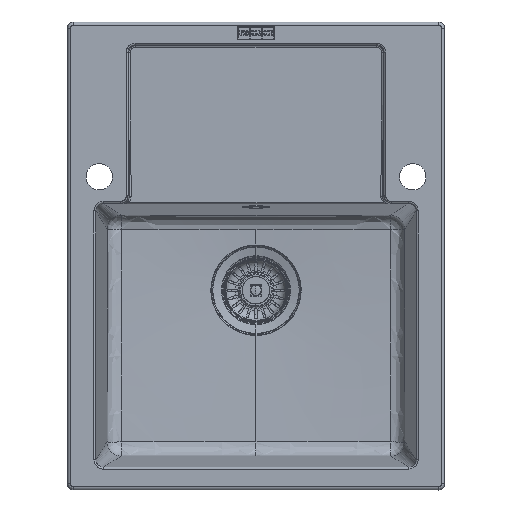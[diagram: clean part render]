
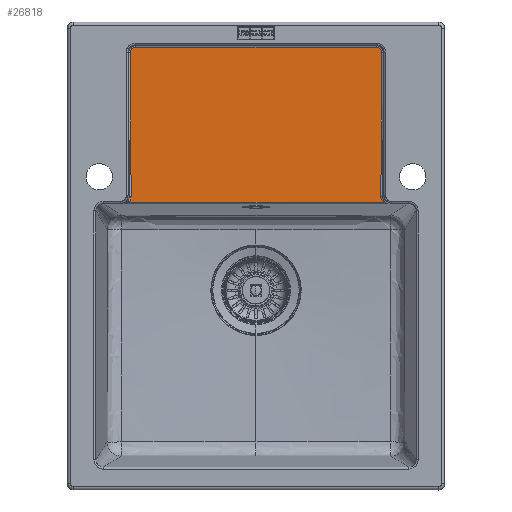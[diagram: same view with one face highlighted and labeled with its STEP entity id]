
A CAD part, top view. The second image highlights one B-rep face of the part: STEP entity #26818.
In plain terms, the highlighted planar face has unit normal (0, -0.019, 1).
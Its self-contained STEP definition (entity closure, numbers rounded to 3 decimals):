
#26818=ADVANCED_FACE('',(#30619),#88788,.T.);
#30619=FACE_OUTER_BOUND('',#34437,.T.);
#34437=EDGE_LOOP('',(#39597,#39598,#39599,#39600,#39601,#39602,#39603,#39604));
#39597=ORIENTED_EDGE('',*,*,#58938,.T.);
#39598=ORIENTED_EDGE('',*,*,#58935,.T.);
#39599=ORIENTED_EDGE('',*,*,#58937,.T.);
#39600=ORIENTED_EDGE('',*,*,#58942,.T.);
#39601=ORIENTED_EDGE('',*,*,#58941,.T.);
#39602=ORIENTED_EDGE('',*,*,#58936,.T.);
#39603=ORIENTED_EDGE('',*,*,#58940,.T.);
#39604=ORIENTED_EDGE('',*,*,#58939,.T.);
#58935=EDGE_CURVE('',#81478,#81479,#68694,.T.);
#58936=EDGE_CURVE('',#81482,#81483,#68695,.T.);
#58937=EDGE_CURVE('',#81479,#81480,#68696,.T.);
#58938=EDGE_CURVE('',#81477,#81478,#68697,.T.);
#58939=EDGE_CURVE('',#81484,#81477,#68698,.T.);
#58940=EDGE_CURVE('',#81483,#81484,#68699,.T.);
#58941=EDGE_CURVE('',#81481,#81482,#68700,.T.);
#58942=EDGE_CURVE('',#81480,#81481,#68701,.T.);
#68694=B_SPLINE_CURVE_WITH_KNOTS('',1,(#140151,#140152),.UNSPECIFIED.,.F.,
 .F.,(2,2),(0.,190.097),.UNSPECIFIED.);
#68695=B_SPLINE_CURVE_WITH_KNOTS('',1,(#140153,#140154),.UNSPECIFIED.,.F.,
 .F.,(2,2),(0.,190.097),.UNSPECIFIED.);
#68696=B_SPLINE_CURVE_WITH_KNOTS('',3,(#140155,#140156,#140157,#140158,
#140159),.UNSPECIFIED.,.F.,.F.,(4,1,4),(-8.54,-4.271,
0.),.UNSPECIFIED.);
#68697=B_SPLINE_CURVE_WITH_KNOTS('',3,(#140160,#140161,#140162,#140163,
#140164,#140165,#140166,#140167,#140168,#140169,#140170,#140171),
 .UNSPECIFIED.,.F.,.F.,(4,2,2,2,2,4),(-11.482,-9.894,
-8.312,-5.547,-2.582,0.),.UNSPECIFIED.);
#68698=B_SPLINE_CURVE_WITH_KNOTS('',1,(#140172,#140173),.UNSPECIFIED.,.F.,
 .F.,(2,2),(-318.423,0.),.UNSPECIFIED.);
#68699=B_SPLINE_CURVE_WITH_KNOTS('',3,(#140174,#140175,#140176,#140177,
#140178,#140179,#140180,#140181,#140182,#140183,#140184,#140185),
 .UNSPECIFIED.,.F.,.F.,(4,2,2,2,2,4),(-11.483,-8.313,
-5.945,-3.227,-1.939,0.),.UNSPECIFIED.);
#68700=B_SPLINE_CURVE_WITH_KNOTS('',3,(#140186,#140187,#140188,#140189,
#140190),.UNSPECIFIED.,.F.,.F.,(4,1,4),(-8.54,-4.27,
0.),.UNSPECIFIED.);
#68701=B_SPLINE_CURVE_WITH_KNOTS('',1,(#140191,#140192),.UNSPECIFIED.,.F.,
 .F.,(2,2),(-336.496,0.),.UNSPECIFIED.);
#81477=VERTEX_POINT('',#134195);
#81478=VERTEX_POINT('',#134196);
#81479=VERTEX_POINT('',#134197);
#81480=VERTEX_POINT('',#134198);
#81481=VERTEX_POINT('',#134199);
#81482=VERTEX_POINT('',#134200);
#81483=VERTEX_POINT('',#134201);
#81484=VERTEX_POINT('',#134202);
#88788=PLANE('',#91615);
#91615=AXIS2_PLACEMENT_3D('',#110710,#97000,$);
#97000=DIRECTION('',(0.,-0.019,1.));
#110710=CARTESIAN_POINT('',(156.248,71.371,-9.974));
#134195=CARTESIAN_POINT('',(-171.212,276.504,-6.067));
#134196=CARTESIAN_POINT('',(-178.419,269.222,-6.205));
#134197=CARTESIAN_POINT('',(-177.449,79.162,-9.825));
#134198=CARTESIAN_POINT('',(-180.248,71.371,-9.974));
#134199=CARTESIAN_POINT('',(156.248,71.371,-9.974));
#134200=CARTESIAN_POINT('',(153.449,79.162,-9.825));
#134201=CARTESIAN_POINT('',(154.419,269.222,-6.205));
#134202=CARTESIAN_POINT('',(147.212,276.504,-6.067));
#140151=CARTESIAN_POINT('',(-178.419,269.222,-6.205));
#140152=CARTESIAN_POINT('',(-177.449,79.162,-9.825));
#140153=CARTESIAN_POINT('',(153.449,79.162,-9.825));
#140154=CARTESIAN_POINT('',(154.419,269.222,-6.205));
#140155=CARTESIAN_POINT('',(-177.449,79.162,-9.825));
#140156=CARTESIAN_POINT('',(-177.442,77.754,-9.852));
#140157=CARTESIAN_POINT('',(-177.92,74.933,-9.906));
#140158=CARTESIAN_POINT('',(-179.346,72.452,-9.953));
#140159=CARTESIAN_POINT('',(-180.248,71.371,-9.974));
#140160=CARTESIAN_POINT('',(-171.212,276.504,-6.067));
#140161=CARTESIAN_POINT('',(-171.738,276.504,-6.067));
#140162=CARTESIAN_POINT('',(-172.265,276.449,-6.068));
#140163=CARTESIAN_POINT('',(-173.294,276.23,-6.072));
#140164=CARTESIAN_POINT('',(-173.796,276.065,-6.075));
#140165=CARTESIAN_POINT('',(-175.108,275.467,-6.086));
#140166=CARTESIAN_POINT('',(-175.867,274.923,-6.097));
#140167=CARTESIAN_POINT('',(-177.164,273.535,-6.123));
#140168=CARTESIAN_POINT('',(-177.679,272.672,-6.14));
#140169=CARTESIAN_POINT('',(-178.285,270.936,-6.173));
#140170=CARTESIAN_POINT('',(-178.423,270.078,-6.189));
#140171=CARTESIAN_POINT('',(-178.419,269.222,-6.205));
#140172=CARTESIAN_POINT('',(147.212,276.504,-6.067));
#140173=CARTESIAN_POINT('',(-171.212,276.504,-6.067));
#140174=CARTESIAN_POINT('',(154.419,269.222,-6.205));
#140175=CARTESIAN_POINT('',(154.424,270.273,-6.185));
#140176=CARTESIAN_POINT('',(154.213,271.328,-6.165));
#140177=CARTESIAN_POINT('',(153.471,273.007,-6.133));
#140178=CARTESIAN_POINT('',(153.034,273.672,-6.121));
#140179=CARTESIAN_POINT('',(151.885,274.906,-6.097));
#140180=CARTESIAN_POINT('',(151.141,275.444,-6.087));
#140181=CARTESIAN_POINT('',(149.937,276.005,-6.076));
#140182=CARTESIAN_POINT('',(149.533,276.15,-6.073));
#140183=CARTESIAN_POINT('',(148.498,276.422,-6.068));
#140184=CARTESIAN_POINT('',(147.854,276.504,-6.067));
#140185=CARTESIAN_POINT('',(147.212,276.504,-6.067));
#140186=CARTESIAN_POINT('',(156.248,71.371,-9.974));
#140187=CARTESIAN_POINT('',(155.346,72.452,-9.953));
#140188=CARTESIAN_POINT('',(153.92,74.933,-9.906));
#140189=CARTESIAN_POINT('',(153.442,77.754,-9.852));
#140190=CARTESIAN_POINT('',(153.449,79.162,-9.825));
#140191=CARTESIAN_POINT('',(-180.248,71.371,-9.974));
#140192=CARTESIAN_POINT('',(156.248,71.371,-9.974));
